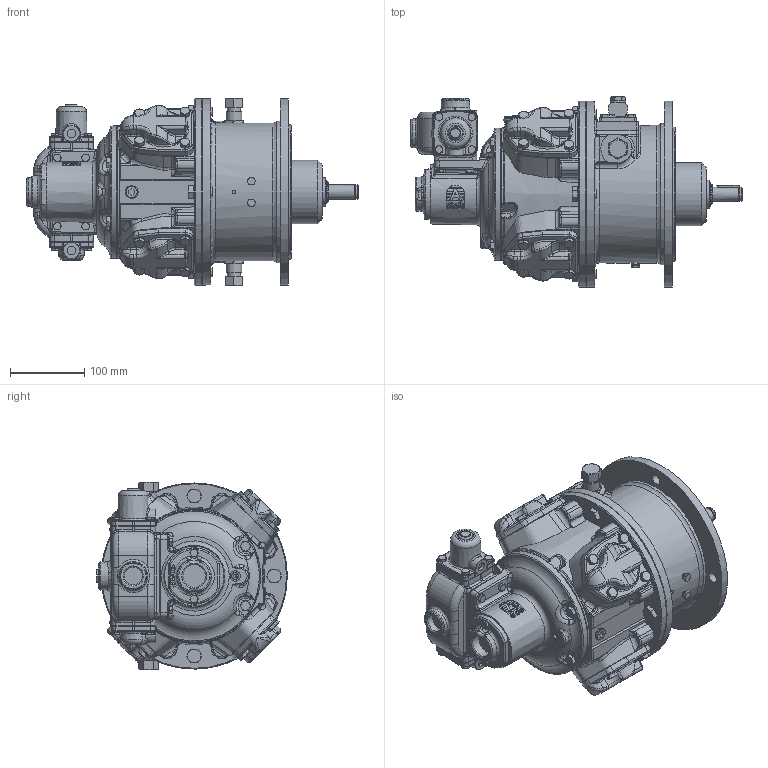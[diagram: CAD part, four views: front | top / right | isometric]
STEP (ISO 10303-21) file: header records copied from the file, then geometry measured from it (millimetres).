
FILE_DESCRIPTION (( 'STEP AP214' ), '1' );
FILE_NAME ('RM210+RCV210+RM210 Brake Defeature + Logo.STEP', '2023-05-17T13:03:10', ( '' ), ( '' ), 'SwSTEP 2.0', 'SolidWorks 2022', '' );
FILE_SCHEMA (( 'AUTOMOTIVE_DESIGN' ));
Length unit declared in the file: millimetre
Products named in the file (1): RM210+RCV210+RM210 Brake Defeature + Logo
Bounding box: 445.94 x 255.92 x 251.46 mm (x, y, z)
Volume: 10450078.9 mm3; surface area: 459441 mm2
Topology: 1 solids, 16 shells, 3362 faces, 8215 edges, 4960 vertices
Faces by surface type: plane 1466, bspline 640, cone 517, cylinder 513, torus 212, sphere 14
Full cylindrical faces by diameter (mm): 1.9 x2, 5 x1, 6 x2, 6.8 x1, 8 x1, 8.566 x3, 9.728 x1, 10 x22, 11.445 x1, 11.7 x1, 11.9 x4, 12 x8, 13 x16, 13.157 x1, 14 x9, 16 x8, 16.9 x1, 17 x8, 17.78 x2, 18 x4, 19 x1, 20.57 x2, 20.955 x2, 21.5 x3, 24.117 x2, 27 x1, 30.5 x1, 38.1 x1, 62 x1, 85 x1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
Entity records: 179565 total; most frequent: CARTESIAN_POINT 71412, ORIENTED_EDGE 15692, DIRECTION 13214, EDGE_CURVE 7846, AXIS2_PLACEMENT_3D 5134, VERTEX_POINT 4857, EDGE_LOOP 3723, FACE_OUTER_BOUND 3503
